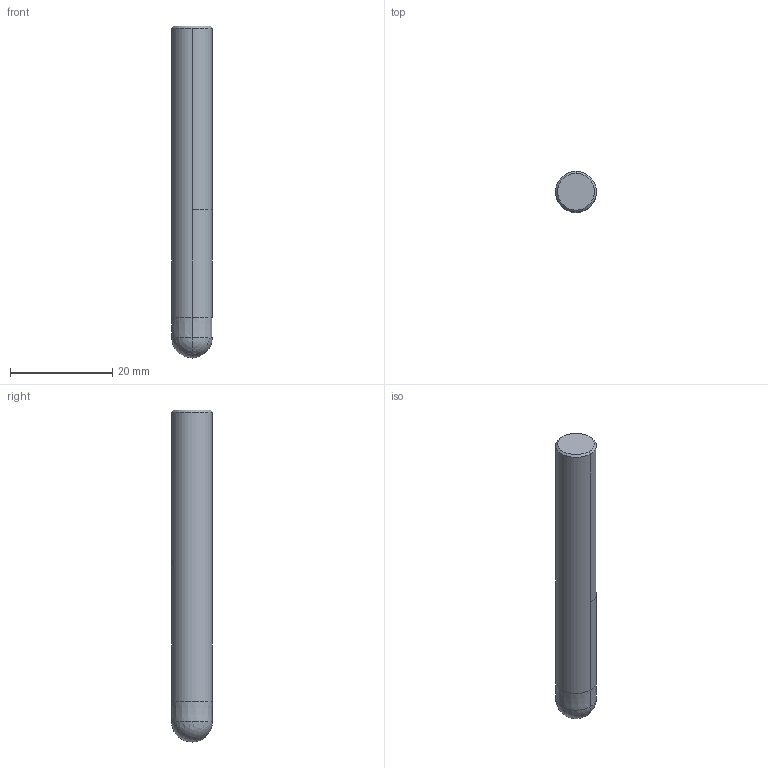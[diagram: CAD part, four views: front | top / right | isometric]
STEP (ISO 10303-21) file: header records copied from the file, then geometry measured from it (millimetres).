
FILE_DESCRIPTION(('no description'),'unknown implementation level');
FILE_NAME('solidN9UfHAMxUaIjdzTNaIKLNUPFu3o_1.STP',' ',('CIMSOURCE GmbH'),('CADClick - KiM GmbH - www.kimweb.de'),'unknown preprocess','ACIS','unknown authorization');
FILE_SCHEMA(('automotive_design'));
Length unit declared in the file: millimetre
Products named in the file (2): NOCUT; CUT
Bounding box: 8 x 8 x 65 mm (x, y, z)
Volume: 3197.9 mm3; surface area: 1779.7 mm2
Topology: 2 solids, 2 shells, 27 faces, 66 edges, 40 vertices
Faces by surface type: cylinder 12, plane 9, cone 4, sphere 2
Entity records: 1755 total; most frequent: CARTESIAN_POINT 363, DIRECTION 135, STYLED_ITEM 131, PRESENTATION_STYLE_ASSIGNMENT 131, COLOUR_RGB 131, ORIENTED_EDGE 124, EDGE_CURVE 62, CURVE_STYLE 62
